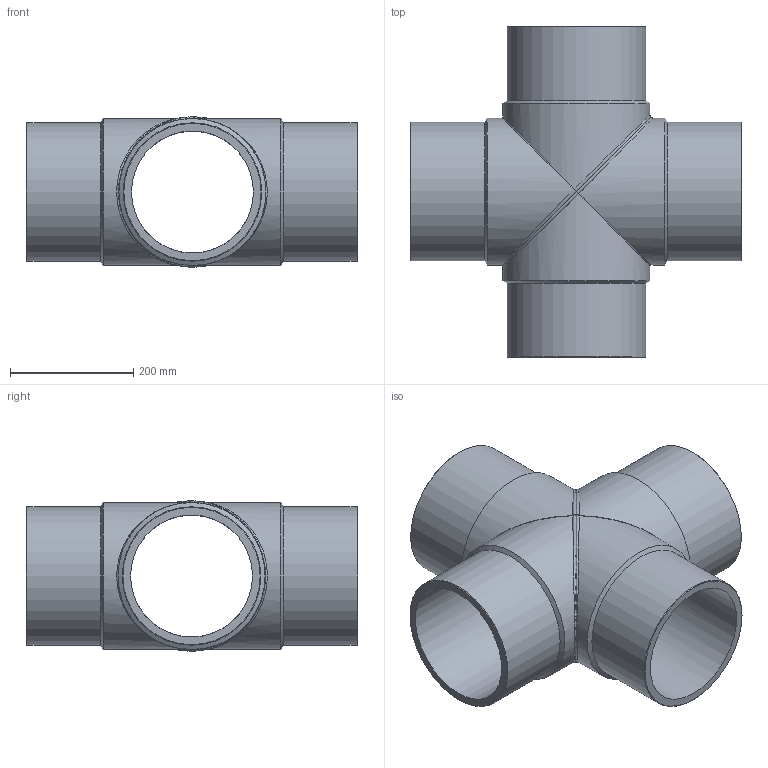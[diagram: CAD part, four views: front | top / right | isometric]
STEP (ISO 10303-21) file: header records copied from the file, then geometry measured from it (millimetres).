
FILE_DESCRIPTION(/* description */ ('Unknown'),/* implementation_level */ '2;1');
FILE_NAME(/* name */ 'CRP225B',/* time_stamp */ '2022-07-08T11:05:16+02:00',/* author */ ('Unknown'),/* organization */ ('Unknown'),/* preprocessor_version */ 'ST-DEVELOPER v18.102',/* originating_system */ 'Solid Edge',/* authorisation */ 'Unknown');
FILE_SCHEMA (('AUTOMOTIVE_DESIGN {1 0 10303 214 3 1 1}'));
Length unit declared in the file: millimetre
Products named in the file (3): CRP225B; CRP225B_mir
Assembly tree (2 placements, depth 2):
  CRP225B
    CRP225B
    CRP225B_mir
Bounding box: 538.5 x 538.5 x 243.99 mm (x, y, z)
Volume: 8669335 mm3; surface area: 1159484.5 mm2
Topology: 2 solids, 2 shells, 32 faces, 88 edges, 58 vertices
Faces by surface type: cylinder 12, cone 8, plane 6, bspline 6
Full cylindrical faces by diameter (mm): 198.2 x4, 225 x4, 239 x4
Entity records: 3479 total; most frequent: CARTESIAN_POINT 2761, DIRECTION 126, ORIENTED_EDGE 116, AXIS2_PLACEMENT_3D 63, EDGE_CURVE 58, EDGE_LOOP 58, FACE_BOUND 58, VERTEX_POINT 48
